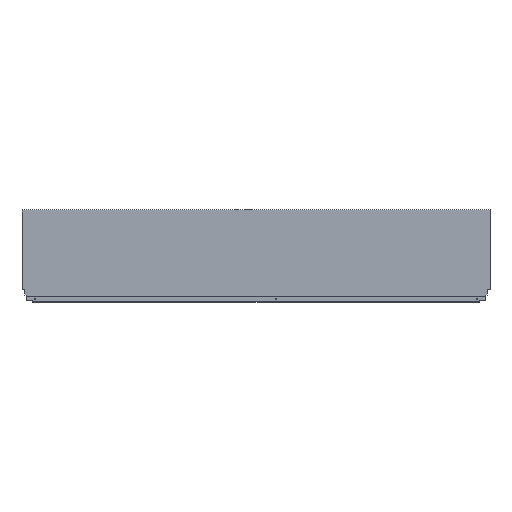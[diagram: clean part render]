
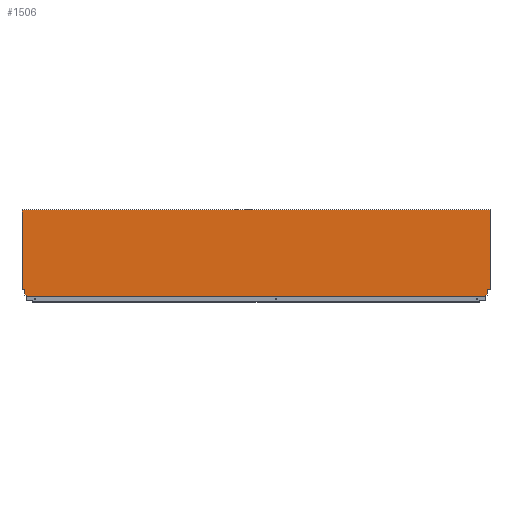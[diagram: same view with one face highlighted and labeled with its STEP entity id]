
A CAD part, top view. The second image highlights one B-rep face of the part: STEP entity #1506.
In plain terms, the highlighted planar face has unit normal (0, 0, 1).
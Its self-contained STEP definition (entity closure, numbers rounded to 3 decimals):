
#189 = EDGE_LOOP ( 'NONE', ( #1102, #1103, #1113, #1114, #1115, #1078, #1041, #1064, #1083, #1073, #1076, #1066, #1158, #1159 ) ) ;
#251 = FACE_OUTER_BOUND ( 'NONE', #189, .T. ) ;
#308 = VECTOR ( 'NONE', #664, 1000. ) ;
#309 = LINE ( 'NONE', #665, #308 ) ;
#310 = VECTOR ( 'NONE', #666, 1000. ) ;
#311 = LINE ( 'NONE', #668, #310 ) ;
#312 = VECTOR ( 'NONE', #670, 1000. ) ;
#313 = LINE ( 'NONE', #671, #312 ) ;
#314 = VECTOR ( 'NONE', #672, 1000. ) ;
#315 = LINE ( 'NONE', #674, #314 ) ;
#316 = VECTOR ( 'NONE', #675, 1000. ) ;
#317 = LINE ( 'NONE', #677, #316 ) ;
#319 = VECTOR ( 'NONE', #678, 1000. ) ;
#320 = VECTOR ( 'NONE', #681, 1000. ) ;
#321 = LINE ( 'NONE', #683, #320 ) ;
#322 = VECTOR ( 'NONE', #685, 1000. ) ;
#324 = LINE ( 'NONE', #704, #319 ) ;
#326 = VECTOR ( 'NONE', #653, 1000. ) ;
#329 = LINE ( 'NONE', #706, #331 ) ;
#331 = VECTOR ( 'NONE', #705, 1000. ) ;
#343 = LINE ( 'NONE', #686, #322 ) ;
#344 = VECTOR ( 'NONE', #688, 1000. ) ;
#345 = LINE ( 'NONE', #689, #344 ) ;
#346 = VECTOR ( 'NONE', #691, 1000. ) ;
#347 = LINE ( 'NONE', #692, #346 ) ;
#348 = VECTOR ( 'NONE', #693, 1000. ) ;
#349 = LINE ( 'NONE', #695, #348 ) ;
#352 = VECTOR ( 'NONE', #700, 1000. ) ;
#353 = LINE ( 'NONE', #655, #326 ) ;
#354 = LINE ( 'NONE', #701, #352 ) ;
#424 = DIRECTION ( 'NONE',  ( 1., 0., 0. ) ) ;
#427 = DIRECTION ( 'NONE',  ( 0., 0., 1. ) ) ;
#429 = PLANE ( 'NONE',  #1455 ) ;
#431 = CARTESIAN_POINT ( 'NONE',  ( -1417., 0., 8. ) ) ;
#450 = CARTESIAN_POINT ( 'NONE',  ( 0., 260.7, 8. ) ) ;
#550 = CARTESIAN_POINT ( 'NONE',  ( -1403.996, 0., 8. ) ) ;
#553 = CARTESIAN_POINT ( 'NONE',  ( -1417., 260.7, 8. ) ) ;
#563 = CARTESIAN_POINT ( 'NONE',  ( -8.9, 10.765, 8. ) ) ;
#567 = CARTESIAN_POINT ( 'NONE',  ( -1403.996, 1.146, 8. ) ) ;
#576 = CARTESIAN_POINT ( 'NONE',  ( -1409.94, 21.2, 8. ) ) ;
#579 = CARTESIAN_POINT ( 'NONE',  ( -8.9, 2.64, 8. ) ) ;
#599 = CARTESIAN_POINT ( 'NONE',  ( -13.004, 0., 8. ) ) ;
#602 = CARTESIAN_POINT ( 'NONE',  ( -1408.1, 2.64, 8. ) ) ;
#653 = DIRECTION ( 'NONE',  ( 0., 1., 0. ) ) ;
#654 = VERTEX_POINT ( 'NONE', #1027 ) ;
#655 = CARTESIAN_POINT ( 'NONE',  ( -1403.996, 1.146, 8. ) ) ;
#664 = DIRECTION ( 'NONE',  ( 1., 0., 0. ) ) ;
#665 = CARTESIAN_POINT ( 'NONE',  ( -1417., 0., 8. ) ) ;
#666 = DIRECTION ( 'NONE',  ( -1., 0., 0. ) ) ;
#668 = CARTESIAN_POINT ( 'NONE',  ( -1422., 21.2, 8. ) ) ;
#670 = DIRECTION ( 'NONE',  ( -0.174, 0.985, 0. ) ) ;
#671 = CARTESIAN_POINT ( 'NONE',  ( -1409.94, 21.2, 8. ) ) ;
#672 = DIRECTION ( 'NONE',  ( 0., 1., 0. ) ) ;
#673 = VERTEX_POINT ( 'NONE', #1006 ) ;
#674 = CARTESIAN_POINT ( 'NONE',  ( -1408.1, 10.765, 8. ) ) ;
#675 = DIRECTION ( 'NONE',  ( -0.94, 0.342, 0. ) ) ;
#677 = CARTESIAN_POINT ( 'NONE',  ( -1408.1, 2.64, 8. ) ) ;
#678 = DIRECTION ( 'NONE',  ( 0., -1., 0. ) ) ;
#679 = VERTEX_POINT ( 'NONE', #1009 ) ;
#681 = DIRECTION ( 'NONE',  ( 0., -1., 0. ) ) ;
#682 = VERTEX_POINT ( 'NONE', #602 ) ;
#683 = CARTESIAN_POINT ( 'NONE',  ( -1417., 0., 8. ) ) ;
#685 = DIRECTION ( 'NONE',  ( -0.94, -0.342, 0. ) ) ;
#686 = CARTESIAN_POINT ( 'NONE',  ( -8.9, 2.64, 8. ) ) ;
#687 = VERTEX_POINT ( 'NONE', #599 ) ;
#688 = DIRECTION ( 'NONE',  ( 0., -1., 0. ) ) ;
#689 = CARTESIAN_POINT ( 'NONE',  ( -8.9, 10.765, 8. ) ) ;
#691 = DIRECTION ( 'NONE',  ( 0., -1., 0. ) ) ;
#692 = CARTESIAN_POINT ( 'NONE',  ( 0., 0., 8. ) ) ;
#693 = DIRECTION ( 'NONE',  ( -0.174, -0.985, 0. ) ) ;
#695 = CARTESIAN_POINT ( 'NONE',  ( -7.06, 21.2, 8. ) ) ;
#700 = DIRECTION ( 'NONE',  ( -1., 0., 0. ) ) ;
#701 = CARTESIAN_POINT ( 'NONE',  ( 0., 21.2, 8. ) ) ;
#704 = CARTESIAN_POINT ( 'NONE',  ( -13.004, 1.146, 8. ) ) ;
#705 = DIRECTION ( 'NONE',  ( 1., 0., 0. ) ) ;
#706 = CARTESIAN_POINT ( 'NONE',  ( -1417., 260.7, 8. ) ) ;
#713 = VERTEX_POINT ( 'NONE', #579 ) ;
#716 = VERTEX_POINT ( 'NONE', #576 ) ;
#726 = VERTEX_POINT ( 'NONE', #567 ) ;
#729 = VERTEX_POINT ( 'NONE', #563 ) ;
#736 = VERTEX_POINT ( 'NONE', #553 ) ;
#739 = VERTEX_POINT ( 'NONE', #550 ) ;
#899 = VERTEX_POINT ( 'NONE', #450 ) ;
#981 = VERTEX_POINT ( 'NONE', #1024 ) ;
#1006 = CARTESIAN_POINT ( 'NONE',  ( -1417., 21.2, 8. ) ) ;
#1009 = CARTESIAN_POINT ( 'NONE',  ( -13.004, 1.146, 8. ) ) ;
#1014 = CARTESIAN_POINT ( 'NONE',  ( 0., 21.2, 8. ) ) ;
#1020 = VERTEX_POINT ( 'NONE', #1014 ) ;
#1024 = CARTESIAN_POINT ( 'NONE',  ( -7.06, 21.2, 8. ) ) ;
#1027 = CARTESIAN_POINT ( 'NONE',  ( -1408.1, 10.765, 8. ) ) ;
#1041 = ORIENTED_EDGE ( 'NONE', *, *, #1399, .T. ) ;
#1064 = ORIENTED_EDGE ( 'NONE', *, *, #1394, .F. ) ;
#1066 = ORIENTED_EDGE ( 'NONE', *, *, #1387, .F. ) ;
#1073 = ORIENTED_EDGE ( 'NONE', *, *, #1391, .F. ) ;
#1076 = ORIENTED_EDGE ( 'NONE', *, *, #1389, .F. ) ;
#1078 = ORIENTED_EDGE ( 'NONE', *, *, #1402, .F. ) ;
#1083 = ORIENTED_EDGE ( 'NONE', *, *, #1392, .F. ) ;
#1102 = ORIENTED_EDGE ( 'NONE', *, *, #1393, .T. ) ;
#1103 = ORIENTED_EDGE ( 'NONE', *, *, #1398, .F. ) ;
#1113 = ORIENTED_EDGE ( 'NONE', *, *, #1397, .F. ) ;
#1114 = ORIENTED_EDGE ( 'NONE', *, *, #1396, .F. ) ;
#1115 = ORIENTED_EDGE ( 'NONE', *, *, #1395, .F. ) ;
#1158 = ORIENTED_EDGE ( 'NONE', *, *, #1390, .F. ) ;
#1159 = ORIENTED_EDGE ( 'NONE', *, *, #1385, .F. ) ;
#1385 = EDGE_CURVE ( 'NONE', #736, #899, #329, .T. ) ;
#1387 = EDGE_CURVE ( 'NONE', #1020, #981, #354, .T. ) ;
#1389 = EDGE_CURVE ( 'NONE', #981, #729, #349, .T. ) ;
#1390 = EDGE_CURVE ( 'NONE', #899, #1020, #347, .T. ) ;
#1391 = EDGE_CURVE ( 'NONE', #729, #713, #345, .T. ) ;
#1392 = EDGE_CURVE ( 'NONE', #713, #679, #343, .T. ) ;
#1393 = EDGE_CURVE ( 'NONE', #736, #673, #321, .T. ) ;
#1394 = EDGE_CURVE ( 'NONE', #679, #687, #324, .T. ) ;
#1395 = EDGE_CURVE ( 'NONE', #726, #682, #317, .T. ) ;
#1396 = EDGE_CURVE ( 'NONE', #682, #654, #315, .T. ) ;
#1397 = EDGE_CURVE ( 'NONE', #654, #716, #313, .T. ) ;
#1398 = EDGE_CURVE ( 'NONE', #716, #673, #311, .T. ) ;
#1399 = EDGE_CURVE ( 'NONE', #739, #687, #309, .T. ) ;
#1402 = EDGE_CURVE ( 'NONE', #739, #726, #353, .T. ) ;
#1455 = AXIS2_PLACEMENT_3D ( 'NONE', #431, #427, #424 ) ;
#1506 = ADVANCED_FACE ( 'NONE', ( #251 ), #429, .T. ) ;
